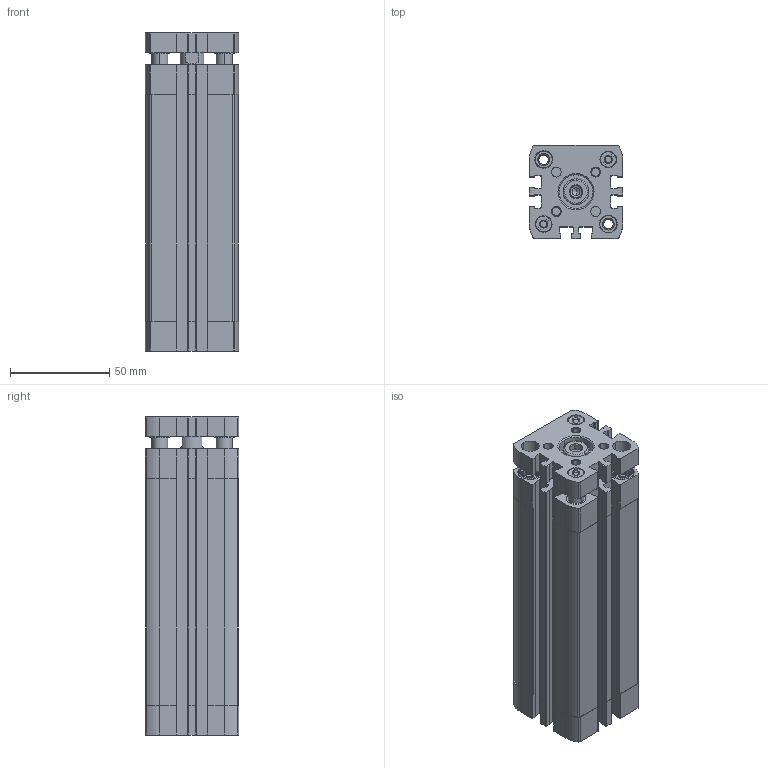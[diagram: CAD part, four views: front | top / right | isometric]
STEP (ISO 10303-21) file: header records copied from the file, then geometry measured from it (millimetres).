
FILE_DESCRIPTION (( 'STEP AP203' ), '1' );
FILE_NAME ('CCNG32-100.STEP', '2017-04-13T19:27:29', ( '' ), ( '' ), 'SwSTEP 2.0', 'SolidWorks 2016', '' );
FILE_SCHEMA (( 'CONFIG_CONTROL_DESIGN' ));
Length unit declared in the file: millimetre
Products named in the file (3): CCNG-32-100---(Z); CCNG-32-100---(KS); CCNG32-100
Assembly tree (2 placements, depth 2):
  CCNG32-100
    CCNG-32-100---(Z)
    CCNG-32-100---(KS)
Bounding box: 47 x 47 x 160 mm (x, y, z)
Volume: 211678.4 mm3; surface area: 92327.6 mm2
Topology: 2 solids, 4 shells, 715 faces, 1922 edges, 1257 vertices
Faces by surface type: plane 363, cylinder 274, cone 72, bspline 6
Entity records: 23115 total; most frequent: CARTESIAN_POINT 4433, DIRECTION 3960, ORIENTED_EDGE 3840, EDGE_CURVE 1920, AXIS2_PLACEMENT_3D 1460, VERTEX_POINT 1257, VECTOR 1040, LINE 1040
